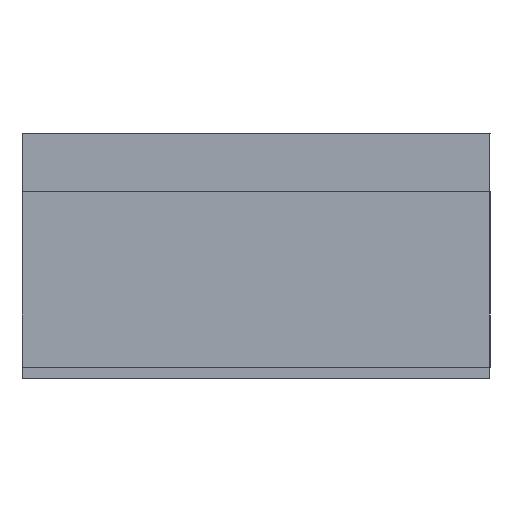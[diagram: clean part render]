
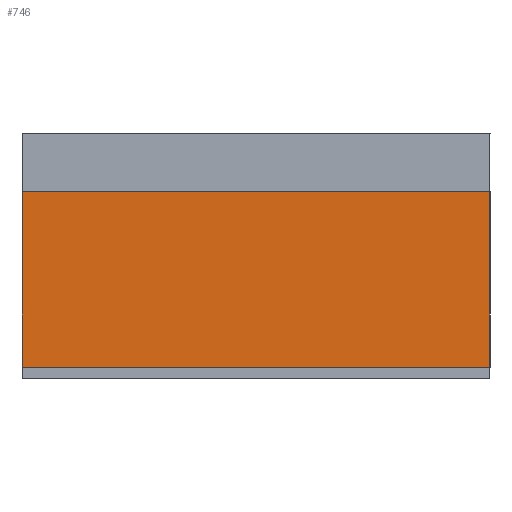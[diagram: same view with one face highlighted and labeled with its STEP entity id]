
A CAD part, left-side view. The second image highlights one B-rep face of the part: STEP entity #746.
In plain terms, the highlighted planar face has unit normal (-1, 0, 0).
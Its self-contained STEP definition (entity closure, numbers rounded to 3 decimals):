
#44 = PLANE('',#45);
#45 = AXIS2_PLACEMENT_3D('',#46,#47,#48);
#46 = CARTESIAN_POINT('',(-0.575,-0.4,0.));
#47 = DIRECTION('',(0.,1.,0.));
#48 = DIRECTION('',(0.,0.,1.));
#100 = PLANE('',#101);
#101 = AXIS2_PLACEMENT_3D('',#102,#103,#104);
#102 = CARTESIAN_POINT('',(-0.575,0.4,0.));
#103 = DIRECTION('',(0.,1.,0.));
#104 = DIRECTION('',(0.,0.,1.));
#126 = PLANE('',#127);
#127 = AXIS2_PLACEMENT_3D('',#128,#129,#130);
#128 = CARTESIAN_POINT('',(-0.8,-0.4,0.02));
#129 = DIRECTION('',(0.,0.,1.));
#130 = DIRECTION('',(1.,0.,0.));
#166 = VERTEX_POINT('',#167);
#167 = CARTESIAN_POINT('',(-0.8,-0.4,0.02));
#188 = EDGE_CURVE('',#166,#189,#191,.T.);
#189 = VERTEX_POINT('',#190);
#190 = CARTESIAN_POINT('',(-0.8,-0.4,0.32));
#191 = SURFACE_CURVE('',#192,(#196,#203),.PCURVE_S1.);
#192 = LINE('',#193,#194);
#193 = CARTESIAN_POINT('',(-0.8,-0.4,0.02));
#194 = VECTOR('',#195,1.);
#195 = DIRECTION('',(0.,0.,1.));
#196 = PCURVE('',#44,#197);
#197 = DEFINITIONAL_REPRESENTATION('',(#198),#202);
#198 = LINE('',#199,#200);
#199 = CARTESIAN_POINT('',(0.02,-0.225));
#200 = VECTOR('',#201,1.);
#201 = DIRECTION('',(1.,0.));
#202 = ( GEOMETRIC_REPRESENTATION_CONTEXT(2) 
PARAMETRIC_REPRESENTATION_CONTEXT() REPRESENTATION_CONTEXT('2D SPACE',''
  ) );
#203 = PCURVE('',#204,#209);
#204 = PLANE('',#205);
#205 = AXIS2_PLACEMENT_3D('',#206,#207,#208);
#206 = CARTESIAN_POINT('',(-0.8,-0.4,0.02));
#207 = DIRECTION('',(1.,0.,0.));
#208 = DIRECTION('',(0.,0.,1.));
#209 = DEFINITIONAL_REPRESENTATION('',(#210),#214);
#210 = LINE('',#211,#212);
#211 = CARTESIAN_POINT('',(0.,0.));
#212 = VECTOR('',#213,1.);
#213 = DIRECTION('',(1.,0.));
#214 = ( GEOMETRIC_REPRESENTATION_CONTEXT(2) 
PARAMETRIC_REPRESENTATION_CONTEXT() REPRESENTATION_CONTEXT('2D SPACE',''
  ) );
#232 = PLANE('',#233);
#233 = AXIS2_PLACEMENT_3D('',#234,#235,#236);
#234 = CARTESIAN_POINT('',(-0.8,-0.4,0.32));
#235 = DIRECTION('',(0.,0.,1.));
#236 = DIRECTION('',(1.,0.,0.));
#441 = EDGE_CURVE('',#166,#442,#444,.T.);
#442 = VERTEX_POINT('',#443);
#443 = CARTESIAN_POINT('',(-0.8,0.4,0.02));
#444 = SURFACE_CURVE('',#445,(#449,#456),.PCURVE_S1.);
#445 = LINE('',#446,#447);
#446 = CARTESIAN_POINT('',(-0.8,-0.4,0.02));
#447 = VECTOR('',#448,1.);
#448 = DIRECTION('',(0.,1.,0.));
#449 = PCURVE('',#126,#450);
#450 = DEFINITIONAL_REPRESENTATION('',(#451),#455);
#451 = LINE('',#452,#453);
#452 = CARTESIAN_POINT('',(0.,0.));
#453 = VECTOR('',#454,1.);
#454 = DIRECTION('',(0.,1.));
#455 = ( GEOMETRIC_REPRESENTATION_CONTEXT(2) 
PARAMETRIC_REPRESENTATION_CONTEXT() REPRESENTATION_CONTEXT('2D SPACE',''
  ) );
#456 = PCURVE('',#204,#457);
#457 = DEFINITIONAL_REPRESENTATION('',(#458),#462);
#458 = LINE('',#459,#460);
#459 = CARTESIAN_POINT('',(0.,0.));
#460 = VECTOR('',#461,1.);
#461 = DIRECTION('',(0.,-1.));
#462 = ( GEOMETRIC_REPRESENTATION_CONTEXT(2) 
PARAMETRIC_REPRESENTATION_CONTEXT() REPRESENTATION_CONTEXT('2D SPACE',''
  ) );
#515 = EDGE_CURVE('',#442,#516,#518,.T.);
#516 = VERTEX_POINT('',#517);
#517 = CARTESIAN_POINT('',(-0.8,0.4,0.32));
#518 = SURFACE_CURVE('',#519,(#523,#530),.PCURVE_S1.);
#519 = LINE('',#520,#521);
#520 = CARTESIAN_POINT('',(-0.8,0.4,0.02));
#521 = VECTOR('',#522,1.);
#522 = DIRECTION('',(0.,0.,1.));
#523 = PCURVE('',#100,#524);
#524 = DEFINITIONAL_REPRESENTATION('',(#525),#529);
#525 = LINE('',#526,#527);
#526 = CARTESIAN_POINT('',(0.02,-0.225));
#527 = VECTOR('',#528,1.);
#528 = DIRECTION('',(1.,0.));
#529 = ( GEOMETRIC_REPRESENTATION_CONTEXT(2) 
PARAMETRIC_REPRESENTATION_CONTEXT() REPRESENTATION_CONTEXT('2D SPACE',''
  ) );
#530 = PCURVE('',#204,#531);
#531 = DEFINITIONAL_REPRESENTATION('',(#532),#536);
#532 = LINE('',#533,#534);
#533 = CARTESIAN_POINT('',(0.,-0.8));
#534 = VECTOR('',#535,1.);
#535 = DIRECTION('',(1.,0.));
#536 = ( GEOMETRIC_REPRESENTATION_CONTEXT(2) 
PARAMETRIC_REPRESENTATION_CONTEXT() REPRESENTATION_CONTEXT('2D SPACE',''
  ) );
#746 = ADVANCED_FACE('',(#747),#204,.F.);
#747 = FACE_BOUND('',#748,.F.);
#748 = EDGE_LOOP('',(#749,#750,#751,#752));
#749 = ORIENTED_EDGE('',*,*,#188,.F.);
#750 = ORIENTED_EDGE('',*,*,#441,.T.);
#751 = ORIENTED_EDGE('',*,*,#515,.T.);
#752 = ORIENTED_EDGE('',*,*,#753,.F.);
#753 = EDGE_CURVE('',#189,#516,#754,.T.);
#754 = SURFACE_CURVE('',#755,(#759,#766),.PCURVE_S1.);
#755 = LINE('',#756,#757);
#756 = CARTESIAN_POINT('',(-0.8,-0.4,0.32));
#757 = VECTOR('',#758,1.);
#758 = DIRECTION('',(0.,1.,0.));
#759 = PCURVE('',#204,#760);
#760 = DEFINITIONAL_REPRESENTATION('',(#761),#765);
#761 = LINE('',#762,#763);
#762 = CARTESIAN_POINT('',(0.3,0.));
#763 = VECTOR('',#764,1.);
#764 = DIRECTION('',(0.,-1.));
#765 = ( GEOMETRIC_REPRESENTATION_CONTEXT(2) 
PARAMETRIC_REPRESENTATION_CONTEXT() REPRESENTATION_CONTEXT('2D SPACE',''
  ) );
#766 = PCURVE('',#232,#767);
#767 = DEFINITIONAL_REPRESENTATION('',(#768),#772);
#768 = LINE('',#769,#770);
#769 = CARTESIAN_POINT('',(0.,0.));
#770 = VECTOR('',#771,1.);
#771 = DIRECTION('',(0.,1.));
#772 = ( GEOMETRIC_REPRESENTATION_CONTEXT(2) 
PARAMETRIC_REPRESENTATION_CONTEXT() REPRESENTATION_CONTEXT('2D SPACE',''
  ) );
